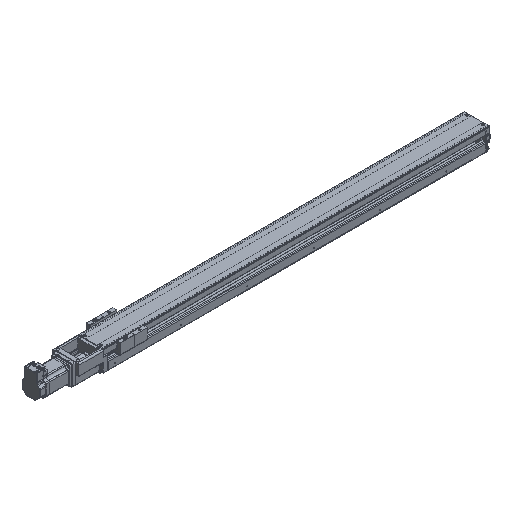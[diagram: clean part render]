
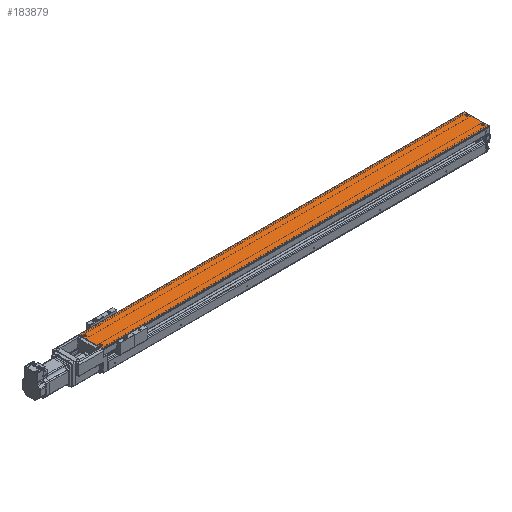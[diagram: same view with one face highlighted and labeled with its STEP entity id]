
A CAD part, isometric view. The second image highlights one B-rep face of the part: STEP entity #183879.
In plain terms, the highlighted planar face has unit normal (0, 0, 1).
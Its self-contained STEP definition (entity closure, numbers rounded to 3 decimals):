
#181976 = PLANE('',#181977);
#181977 = AXIS2_PLACEMENT_3D('',#181978,#181979,#181980);
#181978 = CARTESIAN_POINT('',(1231.62,-721.19,-12.415));
#181979 = DIRECTION('',(1.,0.,0.));
#181980 = DIRECTION('',(0.,0.,-1.));
#182033 = PLANE('',#182034);
#182034 = AXIS2_PLACEMENT_3D('',#182035,#182036,#182037);
#182035 = CARTESIAN_POINT('',(67.62,-738.69,-21.33));
#182036 = DIRECTION('',(-1.,0.,0.));
#182037 = DIRECTION('',(0.,-1.,0.));
#182433 = CYLINDRICAL_SURFACE('',#182434,2.);
#182434 = AXIS2_PLACEMENT_3D('',#182435,#182436,#182437);
#182435 = CARTESIAN_POINT('',(150.12,-781.69,-8.33));
#182436 = DIRECTION('',(-1.,0.,-0.));
#182437 = DIRECTION('',(0.,-0.707,
    0.707));
#182553 = CYLINDRICAL_SURFACE('',#182554,2.);
#182554 = AXIS2_PLACEMENT_3D('',#182555,#182556,#182557);
#182555 = CARTESIAN_POINT('',(150.12,-708.69,-8.33));
#182556 = DIRECTION('',(1.,0.,-0.));
#182557 = DIRECTION('',(0.,0.707,
    0.707));
#183393 = VERTEX_POINT('',#183394);
#183394 = CARTESIAN_POINT('',(67.62,-781.69,-6.33));
#183420 = EDGE_CURVE('',#183421,#183393,#183423,.T.);
#183421 = VERTEX_POINT('',#183422);
#183422 = CARTESIAN_POINT('',(67.62,-708.69,-6.33));
#183423 = SURFACE_CURVE('',#183424,(#183428,#183435),.PCURVE_S1.);
#183424 = LINE('',#183425,#183426);
#183425 = CARTESIAN_POINT('',(67.62,-741.94,-6.33));
#183426 = VECTOR('',#183427,1.);
#183427 = DIRECTION('',(0.,-1.,0.));
#183428 = PCURVE('',#182033,#183429);
#183429 = DEFINITIONAL_REPRESENTATION('',(#183430),#183434);
#183430 = LINE('',#183431,#183432);
#183431 = CARTESIAN_POINT('',(3.25,15.));
#183432 = VECTOR('',#183433,1.);
#183433 = DIRECTION('',(1.,0.));
#183434 = ( GEOMETRIC_REPRESENTATION_CONTEXT(2) 
PARAMETRIC_REPRESENTATION_CONTEXT() REPRESENTATION_CONTEXT('2D SPACE',''
  ) );
#183435 = PCURVE('',#183436,#183441);
#183436 = PLANE('',#183437);
#183437 = AXIS2_PLACEMENT_3D('',#183438,#183439,#183440);
#183438 = CARTESIAN_POINT('',(150.12,-745.19,-6.33));
#183439 = DIRECTION('',(0.,-0.,1.));
#183440 = DIRECTION('',(1.,0.,0.));
#183441 = DEFINITIONAL_REPRESENTATION('',(#183442),#183446);
#183442 = LINE('',#183443,#183444);
#183443 = CARTESIAN_POINT('',(-82.5,3.25));
#183444 = VECTOR('',#183445,1.);
#183445 = DIRECTION('',(0.,-1.));
#183446 = ( GEOMETRIC_REPRESENTATION_CONTEXT(2) 
PARAMETRIC_REPRESENTATION_CONTEXT() REPRESENTATION_CONTEXT('2D SPACE',''
  ) );
#183831 = EDGE_CURVE('',#183421,#183832,#183834,.T.);
#183832 = VERTEX_POINT('',#183833);
#183833 = CARTESIAN_POINT('',(1231.62,-708.69,-6.33));
#183834 = SURFACE_CURVE('',#183835,(#183839,#183846),.PCURVE_S1.);
#183835 = LINE('',#183836,#183837);
#183836 = CARTESIAN_POINT('',(750.12,-708.69,-6.33));
#183837 = VECTOR('',#183838,1.);
#183838 = DIRECTION('',(1.,0.,0.));
#183839 = PCURVE('',#182553,#183840);
#183840 = DEFINITIONAL_REPRESENTATION('',(#183841),#183845);
#183841 = LINE('',#183842,#183843);
#183842 = CARTESIAN_POINT('',(0.785,600.));
#183843 = VECTOR('',#183844,1.);
#183844 = DIRECTION('',(0.,1.));
#183845 = ( GEOMETRIC_REPRESENTATION_CONTEXT(2) 
PARAMETRIC_REPRESENTATION_CONTEXT() REPRESENTATION_CONTEXT('2D SPACE',''
  ) );
#183846 = PCURVE('',#183436,#183847);
#183847 = DEFINITIONAL_REPRESENTATION('',(#183848),#183852);
#183848 = LINE('',#183849,#183850);
#183849 = CARTESIAN_POINT('',(600.,36.5));
#183850 = VECTOR('',#183851,1.);
#183851 = DIRECTION('',(1.,0.));
#183852 = ( GEOMETRIC_REPRESENTATION_CONTEXT(2) 
PARAMETRIC_REPRESENTATION_CONTEXT() REPRESENTATION_CONTEXT('2D SPACE',''
  ) );
#183879 = ADVANCED_FACE('',(#183880),#183436,.T.);
#183880 = FACE_BOUND('',#183881,.T.);
#183881 = EDGE_LOOP('',(#183882,#183883,#183906,#183927));
#183882 = ORIENTED_EDGE('',*,*,#183420,.T.);
#183883 = ORIENTED_EDGE('',*,*,#183884,.F.);
#183884 = EDGE_CURVE('',#183885,#183393,#183887,.T.);
#183885 = VERTEX_POINT('',#183886);
#183886 = CARTESIAN_POINT('',(1231.62,-781.69,-6.33));
#183887 = SURFACE_CURVE('',#183888,(#183892,#183899),.PCURVE_S1.);
#183888 = LINE('',#183889,#183890);
#183889 = CARTESIAN_POINT('',(750.12,-781.69,-6.33));
#183890 = VECTOR('',#183891,1.);
#183891 = DIRECTION('',(-1.,0.,0.));
#183892 = PCURVE('',#183436,#183893);
#183893 = DEFINITIONAL_REPRESENTATION('',(#183894),#183898);
#183894 = LINE('',#183895,#183896);
#183895 = CARTESIAN_POINT('',(600.,-36.5));
#183896 = VECTOR('',#183897,1.);
#183897 = DIRECTION('',(-1.,0.));
#183898 = ( GEOMETRIC_REPRESENTATION_CONTEXT(2) 
PARAMETRIC_REPRESENTATION_CONTEXT() REPRESENTATION_CONTEXT('2D SPACE',''
  ) );
#183899 = PCURVE('',#182433,#183900);
#183900 = DEFINITIONAL_REPRESENTATION('',(#183901),#183905);
#183901 = LINE('',#183902,#183903);
#183902 = CARTESIAN_POINT('',(0.785,-600.));
#183903 = VECTOR('',#183904,1.);
#183904 = DIRECTION('',(0.,1.));
#183905 = ( GEOMETRIC_REPRESENTATION_CONTEXT(2) 
PARAMETRIC_REPRESENTATION_CONTEXT() REPRESENTATION_CONTEXT('2D SPACE',''
  ) );
#183906 = ORIENTED_EDGE('',*,*,#183907,.T.);
#183907 = EDGE_CURVE('',#183885,#183832,#183908,.T.);
#183908 = SURFACE_CURVE('',#183909,(#183913,#183920),.PCURVE_S1.);
#183909 = LINE('',#183910,#183911);
#183910 = CARTESIAN_POINT('',(1231.62,-745.19,-6.33));
#183911 = VECTOR('',#183912,1.);
#183912 = DIRECTION('',(0.,1.,0.));
#183913 = PCURVE('',#183436,#183914);
#183914 = DEFINITIONAL_REPRESENTATION('',(#183915),#183919);
#183915 = LINE('',#183916,#183917);
#183916 = CARTESIAN_POINT('',(1081.5,0.));
#183917 = VECTOR('',#183918,1.);
#183918 = DIRECTION('',(0.,1.));
#183919 = ( GEOMETRIC_REPRESENTATION_CONTEXT(2) 
PARAMETRIC_REPRESENTATION_CONTEXT() REPRESENTATION_CONTEXT('2D SPACE',''
  ) );
#183920 = PCURVE('',#181976,#183921);
#183921 = DEFINITIONAL_REPRESENTATION('',(#183922),#183926);
#183922 = LINE('',#183923,#183924);
#183923 = CARTESIAN_POINT('',(-6.085,-24.));
#183924 = VECTOR('',#183925,1.);
#183925 = DIRECTION('',(0.,1.));
#183926 = ( GEOMETRIC_REPRESENTATION_CONTEXT(2) 
PARAMETRIC_REPRESENTATION_CONTEXT() REPRESENTATION_CONTEXT('2D SPACE',''
  ) );
#183927 = ORIENTED_EDGE('',*,*,#183831,.F.);
